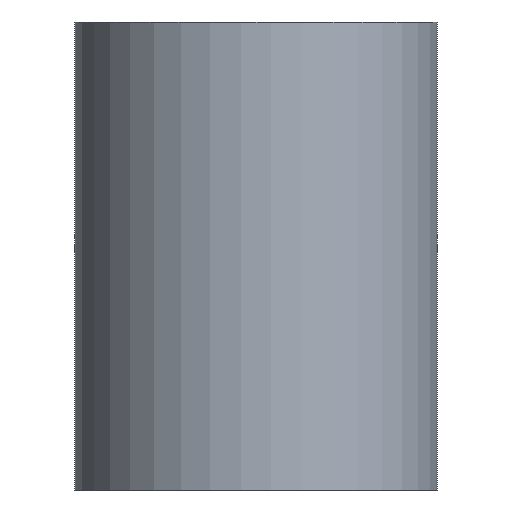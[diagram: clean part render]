
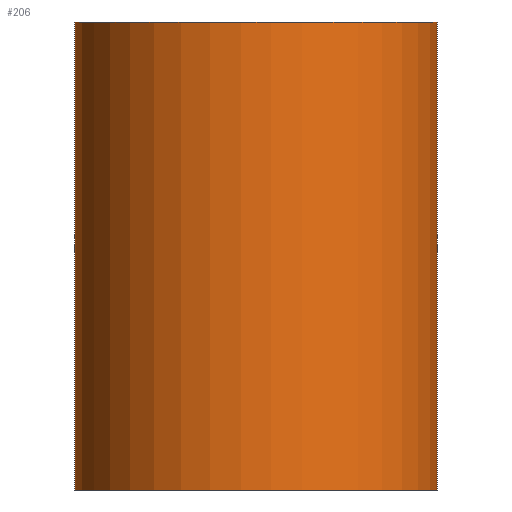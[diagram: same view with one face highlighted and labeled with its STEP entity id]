
A CAD part, left-side view. The second image highlights one B-rep face of the part: STEP entity #206.
In plain terms, the highlighted cylindrical face has radius 31 mm (diameter 62 mm), a partial arc.
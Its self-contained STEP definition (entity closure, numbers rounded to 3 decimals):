
#30=CIRCLE('',#294,31.);
#32=CIRCLE('',#298,31.);
#36=CYLINDRICAL_SURFACE('',#299,31.);
#54=FACE_OUTER_BOUND('',#66,.T.);
#66=EDGE_LOOP('',(#183,#184,#185,#186));
#78=LINE('',#405,#94);
#80=LINE('',#411,#96);
#94=VECTOR('',#341,10.);
#96=VECTOR('',#345,10.);
#108=VERTEX_POINT('',#399);
#110=VERTEX_POINT('',#403);
#111=VERTEX_POINT('',#407);
#113=VERTEX_POINT('',#410);
#130=EDGE_CURVE('',#108,#110,#78,.T.);
#132=EDGE_CURVE('',#113,#111,#80,.T.);
#136=EDGE_CURVE('',#113,#110,#30,.T.);
#138=EDGE_CURVE('',#108,#111,#32,.T.);
#183=ORIENTED_EDGE('',*,*,#130,.T.);
#184=ORIENTED_EDGE('',*,*,#136,.F.);
#185=ORIENTED_EDGE('',*,*,#132,.T.);
#186=ORIENTED_EDGE('',*,*,#138,.F.);
#206=ADVANCED_FACE('',(#54),#36,.T.);
#294=AXIS2_PLACEMENT_3D('',#417,#352,#353);
#298=AXIS2_PLACEMENT_3D('',#421,#360,#361);
#299=AXIS2_PLACEMENT_3D('',#422,#362,#363);
#341=DIRECTION('',(0.,0.,1.));
#345=DIRECTION('',(0.,0.,-1.));
#352=DIRECTION('center_axis',(0.,0.,1.));
#353=DIRECTION('ref_axis',(1.,0.,0.));
#360=DIRECTION('center_axis',(0.,0.,-1.));
#361=DIRECTION('ref_axis',(1.,0.,0.));
#362=DIRECTION('center_axis',(0.,0.,1.));
#363=DIRECTION('ref_axis',(-1.,0.,0.));
#399=CARTESIAN_POINT('',(27.176,-14.915,-40.));
#403=CARTESIAN_POINT('',(27.176,-14.915,40.));
#405=CARTESIAN_POINT('',(27.176,-14.915,0.));
#407=CARTESIAN_POINT('',(27.176,14.915,-40.));
#410=CARTESIAN_POINT('',(27.176,14.915,40.));
#411=CARTESIAN_POINT('',(27.176,14.915,0.));
#417=CARTESIAN_POINT('Origin',(0.,0.,40.));
#421=CARTESIAN_POINT('Origin',(0.,0.,-40.));
#422=CARTESIAN_POINT('Origin',(0.,0.,0.));
